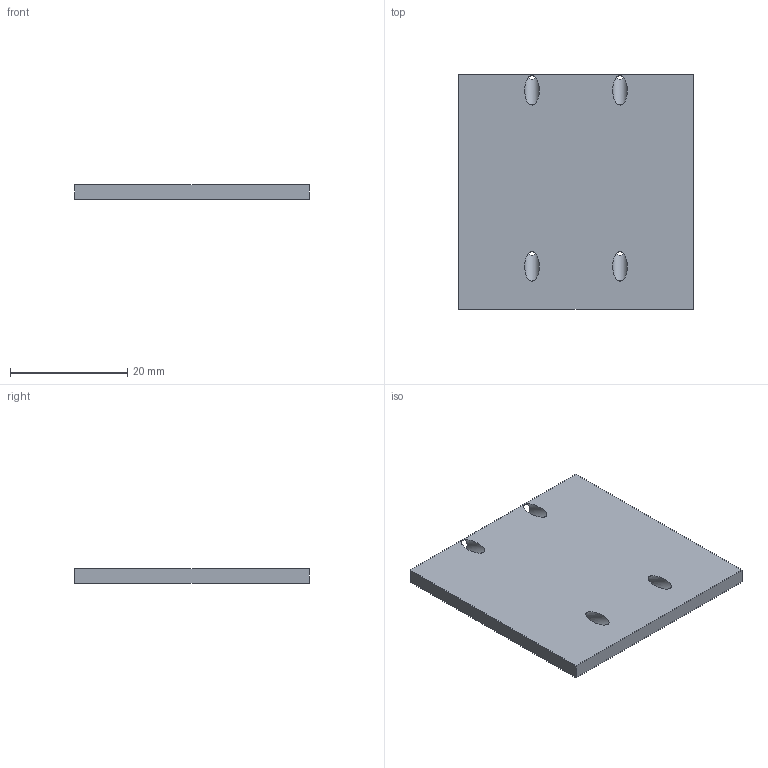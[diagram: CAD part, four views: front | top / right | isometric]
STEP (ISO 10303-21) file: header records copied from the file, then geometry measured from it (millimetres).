
FILE_DESCRIPTION(('Open CASCADE Model'),'2;1');
FILE_NAME('Open CASCADE Shape Model','2026-10-26T07:39:27',('Author'),( 'Open CASCADE'),'Open CASCADE STEP processor 7.9','Open CASCADE 7.9' ,'Unknown');
FILE_SCHEMA(('AUTOMOTIVE_DESIGN { 1 0 10303 214 1 1 1 1 }'));
Length unit declared in the file: millimetre
Products named in the file (1): Open CASCADE STEP translator 7.9 1
Bounding box: 40 x 40 x 2.5 mm (x, y, z)
Volume: 3921 mm3; surface area: 3653.2 mm2
Topology: 1 solids, 1 shells, 10 faces, 30 edges, 20 vertices
Faces by surface type: plane 6, cylinder 4
Full cylindrical faces by diameter (mm): 2.5 x4
Entity records: 880 total; most frequent: CARTESIAN_POINT 263, DIRECTION 112, ORIENTED_EDGE 60, PCURVE 60, DEFINITIONAL_REPRESENTATION 60, LINE 54, VECTOR 54, EDGE_CURVE 30
